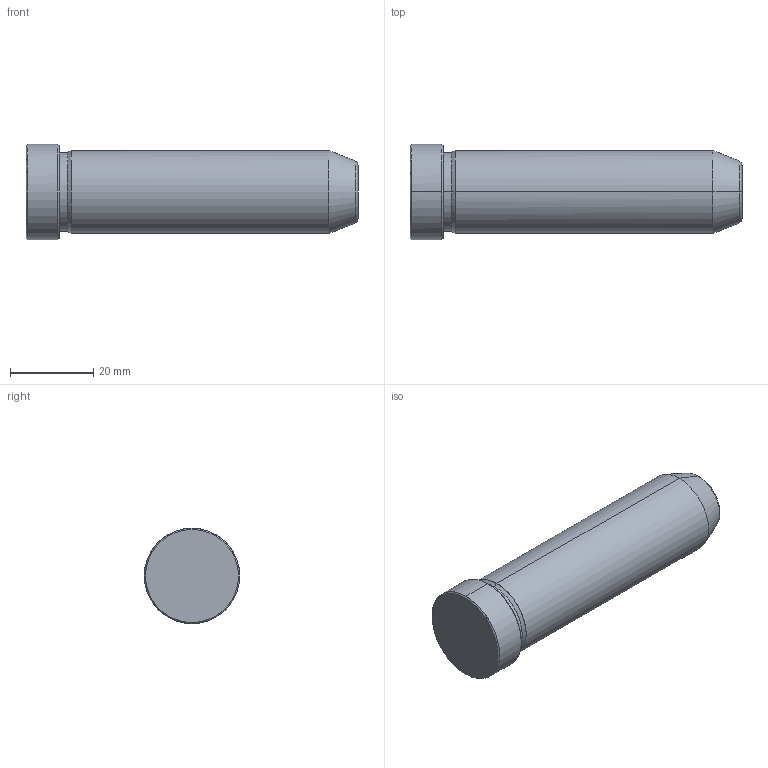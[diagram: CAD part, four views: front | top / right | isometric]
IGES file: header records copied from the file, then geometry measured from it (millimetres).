
Start section: START RECORD GO HERE.
Global section: file name: 549-20X80.igs; native system: DASSAULT SYSTEMES CATIA V5 R20 - www.3ds.com; preprocessor: CATIA Version 5 Release 20 ; author: Utente; organization: NB04-ASUS; date: 20211211.105519; units: millimetre
Bounding box: 80 x 23 x 23 mm (x, y, z)
Surface area: 5745.8 mm2 (no closed solid volume)
Topology: 0 solids, 0 shells, 19 faces, 112 edges, 112 vertices
Faces by surface type: revolution 16, plane 3
